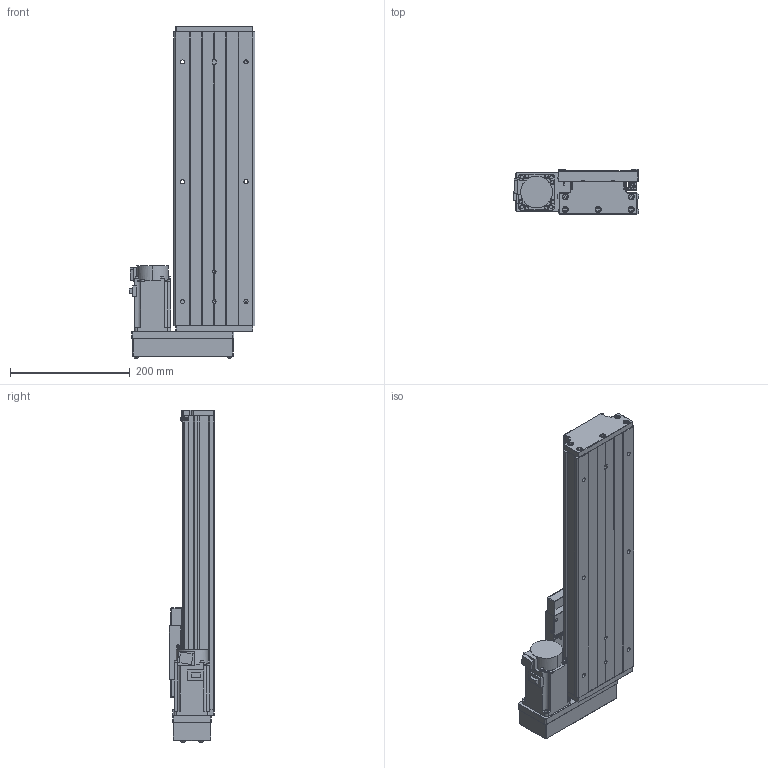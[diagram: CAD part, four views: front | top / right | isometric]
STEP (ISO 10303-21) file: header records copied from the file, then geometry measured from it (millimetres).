
FILE_DESCRIPTION (( 'STEP AP203' ), '1' );
FILE_NAME ('CTH130-300-BL-M40-C4.step', '2023-06-30T02:37:48', ( '微软用户' ), ( '微软中国' ), 'SwSTEP 2.0', 'SolidWorks 2020', '' );
FILE_SCHEMA (( 'CONFIG_CONTROL_DESIGN' ));
Length unit declared in the file: millimetre
Products named in the file (20): CTH130-031; CTH130-300-BL-M40-C4; GBT70.1 M5℅16; GBT 70.2-M3¡Á5_M3¡Á6; GTH14-001_300; CTHA60-017; す晦芛蹟隊 M3℅5; CTH130-002_GTH14-002; EE_SX911P_R; HG-KN43J-S100; GB T308.1-2013-6.35; CTHA60-016; GBT 70.2-M4¡Á35_M4¡Á35; GTH14-004; GBT 70.1-M3℅5; GTH14-015-2_CTHA86-015-2; GTH14-005; GBT77-2000 M3×3; GTH14-033; GB1155-6X6
Assembly tree (60 placements, depth 2):
  CTH130-300-BL-M40-C4
    GTH14-001_300
    CTH130-002_GTH14-002
    GB T308.1-2013-6.35  x2
    GTH14-004
    GTH14-005
    GB1155-6X6  x2
    GBT70.1 M5℅16  x10
    CTHA60-017  x3
    EE_SX911P_R  x3
    CTHA60-016  x2
    GBT 70.1-M3℅5  x6
    GBT77-2000 M3×3  x6
    CTH130-031
    GBT 70.2-M3¡Á5_M3¡Á6  x8
    す晦芛蹟隊 M3℅5  x6
    HG-KN43J-S100
    GBT 70.2-M4¡Á35_M4¡Á35  x4
    GTH14-015-2_CTHA86-015-2
    GTH14-033
Bounding box: 209.3 x 76 x 554.2 mm (x, y, z)
Volume: 3190646.5 mm3; surface area: 593420.8 mm2
Topology: 63 solids, 63 shells, 2415 faces, 5749 edges, 3553 vertices
Faces by surface type: plane 1306, cylinder 630, cone 299, torus 124, sphere 36, bspline 20
Entity records: 43308 total; most frequent: CARTESIAN_POINT 9747, DIRECTION 6282, ORIENTED_EDGE 6204, EDGE_CURVE 3102, AXIS2_PLACEMENT_3D 2132, LINE 2018, VECTOR 2018, VERTEX_POINT 1963
